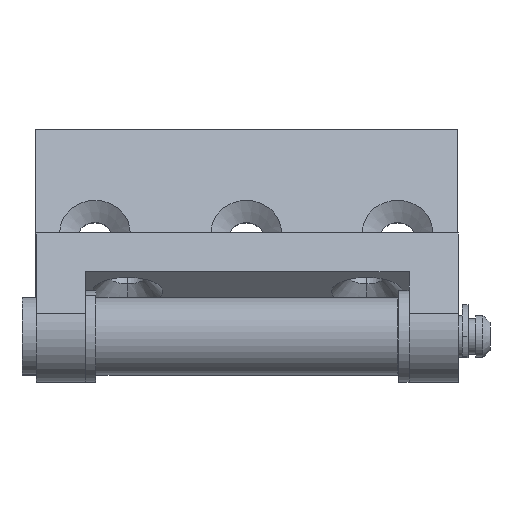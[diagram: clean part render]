
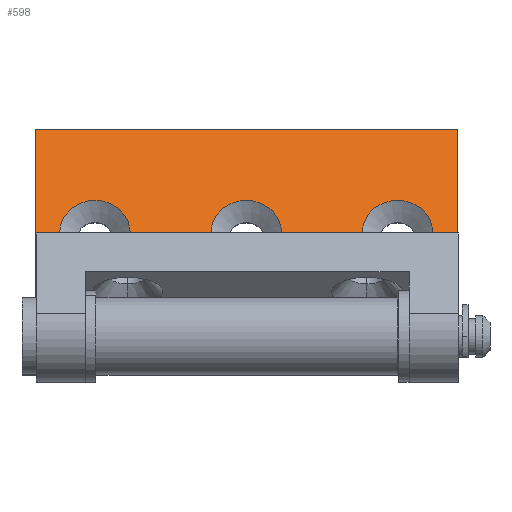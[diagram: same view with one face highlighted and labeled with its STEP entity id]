
A CAD part, top view. The second image highlights one B-rep face of the part: STEP entity #598.
In plain terms, the highlighted planar face has unit normal (0, 0.399, 0.917) as drawn and (0, 0, 1) by its records, which use the part's own axes.
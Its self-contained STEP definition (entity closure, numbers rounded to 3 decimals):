
#514 = EDGE_CURVE ( 'NONE', #554, #695, #1697, .T. ) ;
#544 = VERTEX_POINT ( 'NONE', #1769 ) ;
#547 = VERTEX_POINT ( 'NONE', #1768 ) ;
#550 = EDGE_CURVE ( 'NONE', #551, #547, #1820, .T. ) ;
#551 = VERTEX_POINT ( 'NONE', #1816 ) ;
#554 = VERTEX_POINT ( 'NONE', #1813 ) ;
#582 = ORIENTED_EDGE ( 'NONE', *, *, #729, .T. ) ;
#583 = ORIENTED_EDGE ( 'NONE', *, *, #550, .F. ) ;
#584 = EDGE_CURVE ( 'NONE', #544, #547, #1859, .T. ) ;
#587 = EDGE_CURVE ( 'NONE', #652, #551, #1909, .T. ) ;
#589 = ORIENTED_EDGE ( 'NONE', *, *, #634, .T. ) ;
#590 = ORIENTED_EDGE ( 'NONE', *, *, #592, .T. ) ;
#591 = EDGE_LOOP ( 'NONE', ( #633, #594, #589, #660, #658, #583 ) ) ;
#592 = EDGE_CURVE ( 'NONE', #737, #713, #1905, .T. ) ;
#593 = EDGE_CURVE ( 'NONE', #652, #661, #1900, .T. ) ;
#594 = ORIENTED_EDGE ( 'NONE', *, *, #593, .T. ) ;
#597 = ORIENTED_EDGE ( 'NONE', *, *, #514, .T. ) ;
#598 = ADVANCED_FACE ( 'NONE', ( #1891, #1890, #1889, #1888 ), #1887, .F. ) ;
#599 = ORIENTED_EDGE ( 'NONE', *, *, #677, .T. ) ;
#600 = EDGE_CURVE ( 'NONE', #626, #678, #1885, .T. ) ;
#601 = EDGE_LOOP ( 'NONE', ( #597, #603 ) ) ;
#602 = EDGE_LOOP ( 'NONE', ( #599, #608 ) ) ;
#603 = ORIENTED_EDGE ( 'NONE', *, *, #604, .T. ) ;
#604 = EDGE_CURVE ( 'NONE', #695, #554, #1940, .T. ) ;
#608 = ORIENTED_EDGE ( 'NONE', *, *, #600, .T. ) ;
#609 = EDGE_LOOP ( 'NONE', ( #582, #590 ) ) ;
#611 = EDGE_CURVE ( 'NONE', #612, #544, #1930, .T. ) ;
#612 = VERTEX_POINT ( 'NONE', #1926 ) ;
#626 = VERTEX_POINT ( 'NONE', #1965 ) ;
#633 = ORIENTED_EDGE ( 'NONE', *, *, #587, .F. ) ;
#634 = EDGE_CURVE ( 'NONE', #661, #612, #1964, .T. ) ;
#652 = VERTEX_POINT ( 'NONE', #1996 ) ;
#658 = ORIENTED_EDGE ( 'NONE', *, *, #584, .T. ) ;
#660 = ORIENTED_EDGE ( 'NONE', *, *, #611, .T. ) ;
#661 = VERTEX_POINT ( 'NONE', #1976 ) ;
#677 = EDGE_CURVE ( 'NONE', #678, #626, #2028, .T. ) ;
#678 = VERTEX_POINT ( 'NONE', #2019 ) ;
#695 = VERTEX_POINT ( 'NONE', #2050 ) ;
#713 = VERTEX_POINT ( 'NONE', #2133 ) ;
#729 = EDGE_CURVE ( 'NONE', #713, #737, #2164, .T. ) ;
#737 = VERTEX_POINT ( 'NONE', #2150 ) ;
#1693 = DIRECTION ( 'NONE',  ( -1., 0., 0. ) ) ;
#1694 = DIRECTION ( 'NONE',  ( 0., 0., -1. ) ) ;
#1695 = CARTESIAN_POINT ( 'NONE',  ( 30., 14.5, 2.5 ) ) ;
#1696 = AXIS2_PLACEMENT_3D ( 'NONE', #1695, #1694, #1693 ) ;
#1697 = CIRCLE ( 'NONE', #1696, 5. ) ;
#1768 = CARTESIAN_POINT ( 'NONE',  ( 8.5, 0.5, 2.5 ) ) ;
#1769 = CARTESIAN_POINT ( 'NONE',  ( 0., 0.5, 2.5 ) ) ;
#1813 = CARTESIAN_POINT ( 'NONE',  ( 35., 14.5, 2.5 ) ) ;
#1816 = CARTESIAN_POINT ( 'NONE',  ( 51.5, 0.5, 2.5 ) ) ;
#1817 = DIRECTION ( 'NONE',  ( -1., 0., 0. ) ) ;
#1818 = VECTOR ( 'NONE', #1817, 1000. ) ;
#1819 = CARTESIAN_POINT ( 'NONE',  ( 60., 0.5, 2.5 ) ) ;
#1820 = LINE ( 'NONE', #1819, #1818 ) ;
#1856 = DIRECTION ( 'NONE',  ( 1., 0., 0. ) ) ;
#1857 = VECTOR ( 'NONE', #1856, 1000. ) ;
#1858 = CARTESIAN_POINT ( 'NONE',  ( 60., 0.5, 2.5 ) ) ;
#1859 = LINE ( 'NONE', #1858, #1857 ) ;
#1878 = DIRECTION ( 'NONE',  ( -1., 0., 0. ) ) ;
#1879 = DIRECTION ( 'NONE',  ( 0., 0., -1. ) ) ;
#1880 = CARTESIAN_POINT ( 'NONE',  ( 8.5, 14.5, 2.5 ) ) ;
#1881 = AXIS2_PLACEMENT_3D ( 'NONE', #1880, #1879, #1878 ) ;
#1882 = DIRECTION ( 'NONE',  ( -1., 0., 0. ) ) ;
#1883 = DIRECTION ( 'NONE',  ( 0., 0., -1. ) ) ;
#1884 = AXIS2_PLACEMENT_3D ( 'NONE', #1886, #1883, #1882 ) ;
#1885 = CIRCLE ( 'NONE', #1881, 5. ) ;
#1886 = CARTESIAN_POINT ( 'NONE',  ( 0., 30.5, 2.5 ) ) ;
#1887 = PLANE ( 'NONE',  #1884 ) ;
#1888 = FACE_OUTER_BOUND ( 'NONE', #591, .T. ) ;
#1889 = FACE_BOUND ( 'NONE', #609, .T. ) ;
#1890 = FACE_BOUND ( 'NONE', #601, .T. ) ;
#1891 = FACE_BOUND ( 'NONE', #602, .T. ) ;
#1897 = DIRECTION ( 'NONE',  ( 0., 1., 0. ) ) ;
#1898 = VECTOR ( 'NONE', #1897, 1000. ) ;
#1899 = CARTESIAN_POINT ( 'NONE',  ( 60., 0., 2.5 ) ) ;
#1900 = LINE ( 'NONE', #1899, #1898 ) ;
#1901 = DIRECTION ( 'NONE',  ( -1., 0., 0. ) ) ;
#1902 = DIRECTION ( 'NONE',  ( 0., 0., -1. ) ) ;
#1903 = CARTESIAN_POINT ( 'NONE',  ( 51.5, 14.5, 2.5 ) ) ;
#1904 = AXIS2_PLACEMENT_3D ( 'NONE', #1903, #1902, #1901 ) ;
#1905 = CIRCLE ( 'NONE', #1904, 5. ) ;
#1906 = DIRECTION ( 'NONE',  ( -1., 0., 0. ) ) ;
#1907 = VECTOR ( 'NONE', #1906, 1000. ) ;
#1908 = CARTESIAN_POINT ( 'NONE',  ( 60., 0.5, 2.5 ) ) ;
#1909 = LINE ( 'NONE', #1908, #1907 ) ;
#1926 = CARTESIAN_POINT ( 'NONE',  ( 0., 30.5, 2.5 ) ) ;
#1927 = DIRECTION ( 'NONE',  ( 0., -1., 0. ) ) ;
#1928 = VECTOR ( 'NONE', #1927, 1000. ) ;
#1929 = CARTESIAN_POINT ( 'NONE',  ( 0., 0., 2.5 ) ) ;
#1930 = LINE ( 'NONE', #1929, #1928 ) ;
#1936 = DIRECTION ( 'NONE',  ( -1., 0., 0. ) ) ;
#1937 = DIRECTION ( 'NONE',  ( 0., 0., -1. ) ) ;
#1938 = CARTESIAN_POINT ( 'NONE',  ( 30., 14.5, 2.5 ) ) ;
#1939 = AXIS2_PLACEMENT_3D ( 'NONE', #1938, #1937, #1936 ) ;
#1940 = CIRCLE ( 'NONE', #1939, 5. ) ;
#1956 = DIRECTION ( 'NONE',  ( -1., 0., 0. ) ) ;
#1957 = VECTOR ( 'NONE', #1956, 1000. ) ;
#1958 = CARTESIAN_POINT ( 'NONE',  ( 0., 30.5, 2.5 ) ) ;
#1964 = LINE ( 'NONE', #1958, #1957 ) ;
#1965 = CARTESIAN_POINT ( 'NONE',  ( 3.5, 14.5, 2.5 ) ) ;
#1976 = CARTESIAN_POINT ( 'NONE',  ( 60., 30.5, 2.5 ) ) ;
#1996 = CARTESIAN_POINT ( 'NONE',  ( 60., 0.5, 2.5 ) ) ;
#2019 = CARTESIAN_POINT ( 'NONE',  ( 13.5, 14.5, 2.5 ) ) ;
#2020 = DIRECTION ( 'NONE',  ( -1., 0., 0. ) ) ;
#2021 = DIRECTION ( 'NONE',  ( 0., 0., -1. ) ) ;
#2022 = CARTESIAN_POINT ( 'NONE',  ( 8.5, 14.5, 2.5 ) ) ;
#2023 = AXIS2_PLACEMENT_3D ( 'NONE', #2022, #2021, #2020 ) ;
#2028 = CIRCLE ( 'NONE', #2023, 5. ) ;
#2050 = CARTESIAN_POINT ( 'NONE',  ( 25., 14.5, 2.5 ) ) ;
#2133 = CARTESIAN_POINT ( 'NONE',  ( 56.5, 14.5, 2.5 ) ) ;
#2150 = CARTESIAN_POINT ( 'NONE',  ( 46.5, 14.5, 2.5 ) ) ;
#2160 = DIRECTION ( 'NONE',  ( -1., 0., 0. ) ) ;
#2161 = DIRECTION ( 'NONE',  ( 0., 0., -1. ) ) ;
#2162 = CARTESIAN_POINT ( 'NONE',  ( 51.5, 14.5, 2.5 ) ) ;
#2163 = AXIS2_PLACEMENT_3D ( 'NONE', #2162, #2161, #2160 ) ;
#2164 = CIRCLE ( 'NONE', #2163, 5. ) ;
